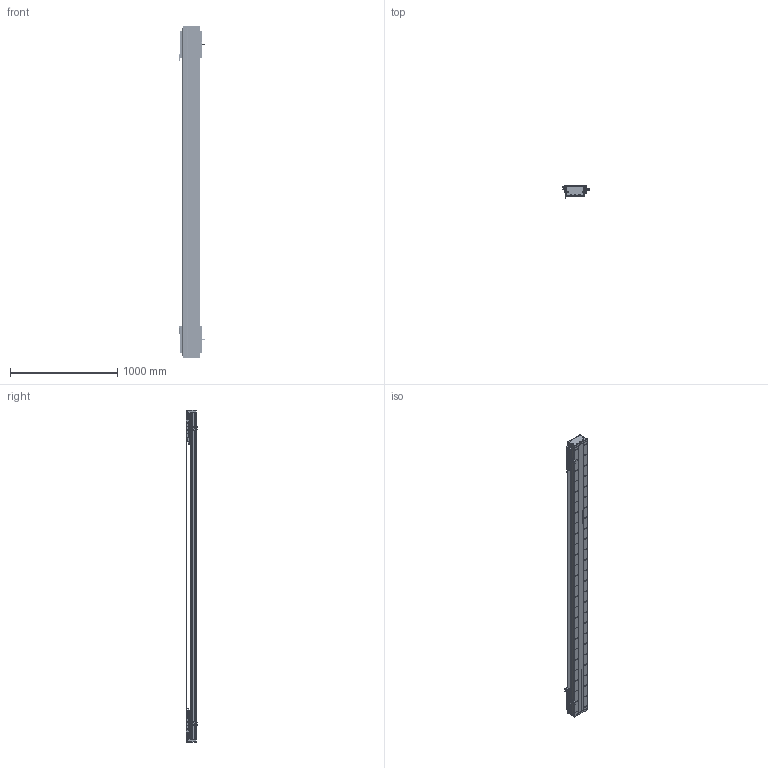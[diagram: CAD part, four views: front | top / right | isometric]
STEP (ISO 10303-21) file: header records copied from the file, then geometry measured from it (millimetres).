
FILE_DESCRIPTION (( 'STEP AP203' ), '1' );
FILE_NAME ('DA-C165-2-C3-T2480-C010-0.2 直线电机.STEP', '2023-06-13T09:16:22', ( '微软用户' ), ( '微软中国' ), 'SwSTEP 2.0', 'SolidWorks 2019', '' );
FILE_SCHEMA (( 'CONFIG_CONTROL_DESIGN' ));
Length unit declared in the file: millimetre
Products named in the file (22): 葩璃 DA95-GT-T-00^IU-CU165-L 菁釱絳寢_T; 复件 DKW-HXJ-JY-00 缓冲橡胶^DA-C165-C3-T-C010-0.2-N 直线电机; 珨极趙賑雄怢啣C3-wf; 复件 DA95-HXJ-00 缓冲橡胶^DA-C165-C3-T-C010-0.2-N 直线电机; 复件 DA126-GYP-ZJ-00 中间光电感应片^DA-C165-C3-T-C010-0.2-N 直线电机; 复件 CU165 底座^IU-CU165-L 底座导轨_L3060; 葩璃 CKM03-W075-C1C2-TP-3.0^DA-C165-C3-T-C010-0.2-N 眻盄萇儂; 复件 DA165-GD-1860-002-00 钢带盖板^复件 CU165钢带组件_DA-C165-C3-T-C010-0.2-N 直线电机; 复件 DA165-GYP-00 光电感应片^DA-C165-C3-T-C010-0.2-N 直线电机; 复件 六角薄螺母 M3^DA-C165-C3-T-C010-0.2-N 直线电机_GB_FASTENER_NUT_STNAB M3-C; 葩璃 CKM01-W075-TRL^DA-C165-C3-T-C010-0.2-N 眻盄萇儂; DA-C165-2-C3-T2480-C010-0.2 眻盄萇儂; 复件 DA165-GDLK-00 钢带拉块^复件 CU165钢带组件_DA-C165-C3-T-C010-0.2-N 直线电机; 葩璃 PM-T45^DA-C165-C3-T-C010-0.2-N 眻盄萇儂; 复件 DA165-GDYK-00 钢带压块^复件 CU165钢带组件_DA-C165-C3-T-C010-0.2-N 直线电机; 复件 DMA-010-0.2 读数头^DA-C165-C3-T-C010-0.2-N 直线电机; 复件 DA165-GD-DG-H-00 端盖^复件 CU165钢带组件_DA-C165-C3-T-C010-0.2-N 直线电机; 复件 66338-1000-006-00 光电感应块^DA-C165-C3-T-C010-0.2-N 直线电机; 复件 XD-U-02L 磁栅尺^DA-C165-C3-T-C010-0.2-N 直线电机_T; IU-CU165-L 菁釱絳寢; 葩璃 PM-Y45^DA-C165-C3-T-C010-0.2-N 眻盄萇儂; 复件 CU165钢带组件^DA-C165-C3-T-C010-0.2-N 直线电机
Assembly tree (45 placements, depth 3):
  DA-C165-2-C3-T2480-C010-0.2 眻盄萇儂
    IU-CU165-L 菁釱絳寢
      复件 CU165 底座^IU-CU165-L 底座导轨_L3060
      葩璃 DA95-GT-T-00^IU-CU165-L 菁釱絳寢_T  x4
    复件 XD-U-02L 磁栅尺^DA-C165-C3-T-C010-0.2-N 直线电机_T
    葩璃 PM-T45^DA-C165-C3-T-C010-0.2-N 眻盄萇儂  x4
    葩璃 CKM01-W075-TRL^DA-C165-C3-T-C010-0.2-N 眻盄萇儂
    复件 CU165钢带组件^DA-C165-C3-T-C010-0.2-N 直线电机
      复件 DA165-GD-DG-H-00 端盖^复件 CU165钢带组件_DA-C165-C3-T-C010-0.2-N 直线电机  x2
      复件 DA165-GDYK-00 钢带压块^复件 CU165钢带组件_DA-C165-C3-T-C010-0.2-N 直线电机  x2
      复件 DA165-GD-1860-002-00 钢带盖板^复件 CU165钢带组件_DA-C165-C3-T-C010-0.2-N 直线电机
      复件 DA165-GDLK-00 钢带拉块^复件 CU165钢带组件_DA-C165-C3-T-C010-0.2-N 直线电机  x2
    复件 DA95-HXJ-00 缓冲橡胶^DA-C165-C3-T-C010-0.2-N 直线电机  x4
    复件 DMA-010-0.2 读数头^DA-C165-C3-T-C010-0.2-N 直线电机  x2
    复件 DA165-GYP-00 光电感应片^DA-C165-C3-T-C010-0.2-N 直线电机  x2
    复件 66338-1000-006-00 光电感应块^DA-C165-C3-T-C010-0.2-N 直线电机
    葩璃 PM-Y45^DA-C165-C3-T-C010-0.2-N 眻盄萇儂
    复件 DA126-GYP-ZJ-00 中间光电感应片^DA-C165-C3-T-C010-0.2-N 直线电机
    葩璃 CKM03-W075-C1C2-TP-3.0^DA-C165-C3-T-C010-0.2-N 眻盄萇儂  x2
    复件 DKW-HXJ-JY-00 缓冲橡胶^DA-C165-C3-T-C010-0.2-N 直线电机  x2
    复件 六角薄螺母 M3^DA-C165-C3-T-C010-0.2-N 直线电机_GB_FASTENER_NUT_STNAB M3-C  x8
    珨极趙賑雄怢啣C3-wf  x2
Bounding box: 247.2 x 111.45 x 3100 mm (x, y, z)
Volume: 19520584.4 mm3; surface area: 5594073.4 mm2
Topology: 121 solids, 221 shells, 6805 faces, 18838 edges, 11772 vertices
Faces by surface type: cylinder 3702, plane 2035, cone 980, torus 80, sphere 8
Entity records: 160866 total; most frequent: CARTESIAN_POINT 44061, ORIENTED_EDGE 24260, DIRECTION 23462, EDGE_CURVE 12130, AXIS2_PLACEMENT_3D 8983, VERTEX_POINT 7926, EDGE_LOOP 5594, LINE 5496
